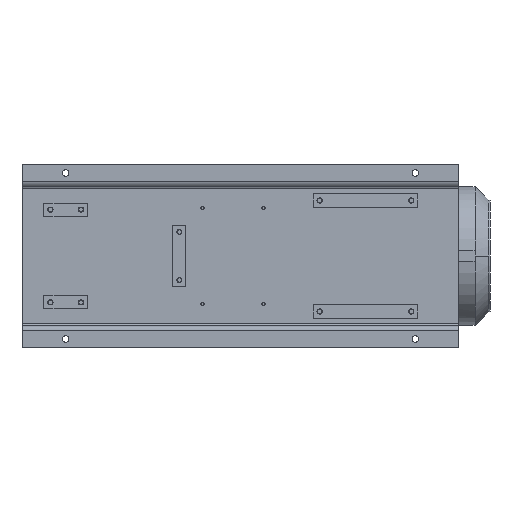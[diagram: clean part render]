
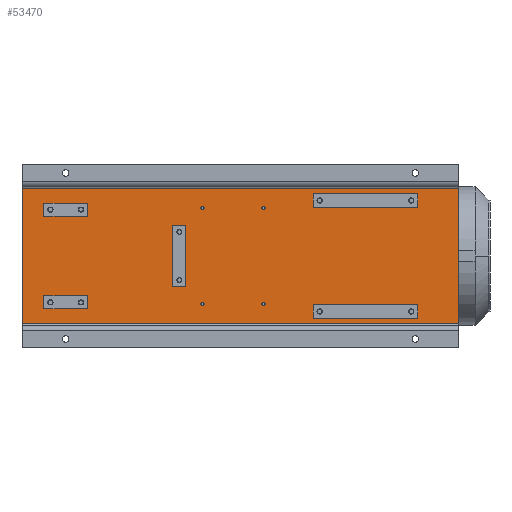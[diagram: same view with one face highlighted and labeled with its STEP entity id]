
A CAD part, front view. The second image highlights one B-rep face of the part: STEP entity #53470.
In plain terms, the highlighted planar face has unit normal (0, -1, 0).
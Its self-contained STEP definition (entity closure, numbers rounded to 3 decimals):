
#51135=DIRECTION('',(1.,0.,0.));
#51136=VECTOR('',#51135,310.);
#51137=CARTESIAN_POINT('',(-155.,45.,0.));
#51138=LINE('',#51137,#51136);
#51590=DIRECTION('',(0.,0.,1.));
#51591=VECTOR('',#51590,1000.);
#51592=CARTESIAN_POINT('',(155.,45.,0.));
#51593=LINE('',#51592,#51591);
#51597=DIRECTION('',(0.,0.,1.));
#51598=VECTOR('',#51597,1000.);
#51599=CARTESIAN_POINT('',(-155.,45.,0.));
#51600=LINE('',#51599,#51598);
#51604=DIRECTION('',(0.,0.,1.));
#51605=VECTOR('',#51604,100.);
#51606=CARTESIAN_POINT('',(-91.,45.,50.));
#51607=LINE('',#51606,#51605);
#51611=DIRECTION('',(-1.,0.,0.));
#51612=VECTOR('',#51611,30.);
#51613=CARTESIAN_POINT('',(-91.,45.,150.));
#51614=LINE('',#51613,#51612);
#51618=DIRECTION('',(0.,0.,-1.));
#51619=VECTOR('',#51618,100.);
#51620=CARTESIAN_POINT('',(-121.,45.,150.));
#51621=LINE('',#51620,#51619);
#51625=DIRECTION('',(1.,0.,0.));
#51626=VECTOR('',#51625,30.);
#51627=CARTESIAN_POINT('',(-121.,45.,50.));
#51628=LINE('',#51627,#51626);
#51632=DIRECTION('',(1.,0.,0.));
#51633=VECTOR('',#51632,30.);
#51634=CARTESIAN_POINT('',(91.,45.,50.));
#51635=LINE('',#51634,#51633);
#51639=DIRECTION('',(0.,0.,1.));
#51640=VECTOR('',#51639,100.);
#51641=CARTESIAN_POINT('',(121.,45.,50.));
#51642=LINE('',#51641,#51640);
#51646=DIRECTION('',(-1.,0.,0.));
#51647=VECTOR('',#51646,30.);
#51648=CARTESIAN_POINT('',(121.,45.,150.));
#51649=LINE('',#51648,#51647);
#51653=DIRECTION('',(0.,0.,-1.));
#51654=VECTOR('',#51653,100.);
#51655=CARTESIAN_POINT('',(91.,45.,150.));
#51656=LINE('',#51655,#51654);
#51660=DIRECTION('',(0.,0.,1.));
#51661=VECTOR('',#51660,240.);
#51662=CARTESIAN_POINT('',(-112.,45.,666.));
#51663=LINE('',#51662,#51661);
#51667=DIRECTION('',(-1.,0.,0.));
#51668=VECTOR('',#51667,30.);
#51669=CARTESIAN_POINT('',(-112.,45.,906.));
#51670=LINE('',#51669,#51668);
#51674=DIRECTION('',(0.,0.,-1.));
#51675=VECTOR('',#51674,240.);
#51676=CARTESIAN_POINT('',(-142.,45.,906.));
#51677=LINE('',#51676,#51675);
#51681=DIRECTION('',(1.,0.,0.));
#51682=VECTOR('',#51681,30.);
#51683=CARTESIAN_POINT('',(-142.,45.,666.));
#51684=LINE('',#51683,#51682);
#51688=DIRECTION('',(1.,0.,0.));
#51689=VECTOR('',#51688,30.);
#51690=CARTESIAN_POINT('',(112.,45.,666.));
#51691=LINE('',#51690,#51689);
#51695=DIRECTION('',(0.,0.,1.));
#51696=VECTOR('',#51695,240.);
#51697=CARTESIAN_POINT('',(142.,45.,666.));
#51698=LINE('',#51697,#51696);
#51702=DIRECTION('',(-1.,0.,0.));
#51703=VECTOR('',#51702,30.);
#51704=CARTESIAN_POINT('',(142.,45.,906.));
#51705=LINE('',#51704,#51703);
#51709=DIRECTION('',(0.,0.,-1.));
#51710=VECTOR('',#51709,240.);
#51711=CARTESIAN_POINT('',(112.,45.,906.));
#51712=LINE('',#51711,#51710);
#51716=DIRECTION('',(0.,0.,1.));
#51717=VECTOR('',#51716,30.);
#51718=CARTESIAN_POINT('',(70.,45.,345.));
#51719=LINE('',#51718,#51717);
#51723=DIRECTION('',(-1.,0.,0.));
#51724=VECTOR('',#51723,140.);
#51725=CARTESIAN_POINT('',(70.,45.,375.));
#51726=LINE('',#51725,#51724);
#51730=DIRECTION('',(0.,0.,-1.));
#51731=VECTOR('',#51730,30.);
#51732=CARTESIAN_POINT('',(-70.,45.,375.));
#51733=LINE('',#51732,#51731);
#51737=DIRECTION('',(1.,0.,0.));
#51738=VECTOR('',#51737,140.);
#51739=CARTESIAN_POINT('',(-70.,45.,345.));
#51740=LINE('',#51739,#51738);
#51744=CARTESIAN_POINT('',(110.,45.,413.));
#51745=DIRECTION('',(0.,1.,0.));
#51746=DIRECTION('',(0.,0.,1.));
#51747=AXIS2_PLACEMENT_3D('',#51744,#51745,#51746);
#51752=CARTESIAN_POINT('',(110.,45.,413.));
#51753=DIRECTION('',(0.,1.,0.));
#51754=DIRECTION('',(0.,0.,-1.));
#51755=AXIS2_PLACEMENT_3D('',#51752,#51753,#51754);
#51760=CARTESIAN_POINT('',(110.,45.,553.));
#51761=DIRECTION('',(0.,1.,0.));
#51762=DIRECTION('',(0.,0.,1.));
#51763=AXIS2_PLACEMENT_3D('',#51760,#51761,#51762);
#51768=CARTESIAN_POINT('',(110.,45.,553.));
#51769=DIRECTION('',(0.,1.,0.));
#51770=DIRECTION('',(0.,0.,-1.));
#51771=AXIS2_PLACEMENT_3D('',#51768,#51769,#51770);
#51776=CARTESIAN_POINT('',(-110.,45.,413.));
#51777=DIRECTION('',(0.,1.,0.));
#51778=DIRECTION('',(0.,0.,1.));
#51779=AXIS2_PLACEMENT_3D('',#51776,#51777,#51778);
#51784=CARTESIAN_POINT('',(-110.,45.,413.));
#51785=DIRECTION('',(0.,1.,0.));
#51786=DIRECTION('',(0.,0.,-1.));
#51787=AXIS2_PLACEMENT_3D('',#51784,#51785,#51786);
#51792=CARTESIAN_POINT('',(-110.,45.,553.));
#51793=DIRECTION('',(0.,1.,0.));
#51794=DIRECTION('',(0.,0.,1.));
#51795=AXIS2_PLACEMENT_3D('',#51792,#51793,#51794);
#51800=CARTESIAN_POINT('',(-110.,45.,553.));
#51801=DIRECTION('',(0.,1.,0.));
#51802=DIRECTION('',(0.,0.,-1.));
#51803=AXIS2_PLACEMENT_3D('',#51800,#51801,#51802);
#52026=DIRECTION('',(1.,0.,0.));
#52027=VECTOR('',#52026,310.);
#52028=CARTESIAN_POINT('',(-155.,45.,1000.));
#52029=LINE('',#52028,#52027);
#52804=CARTESIAN_POINT('',(155.,45.,0.));
#52805=CARTESIAN_POINT('',(155.,45.,1000.));
#52806=VERTEX_POINT('',#52804);
#52807=VERTEX_POINT('',#52805);
#52808=CARTESIAN_POINT('',(-155.,45.,0.));
#52809=CARTESIAN_POINT('',(-155.,45.,1000.));
#52810=VERTEX_POINT('',#52808);
#52811=VERTEX_POINT('',#52809);
#52864=CARTESIAN_POINT('',(-91.,45.,50.));
#52865=CARTESIAN_POINT('',(-91.,45.,150.));
#52866=VERTEX_POINT('',#52864);
#52867=VERTEX_POINT('',#52865);
#52868=CARTESIAN_POINT('',(-121.,45.,150.));
#52869=VERTEX_POINT('',#52868);
#52870=CARTESIAN_POINT('',(-121.,45.,50.));
#52871=VERTEX_POINT('',#52870);
#52872=CARTESIAN_POINT('',(91.,45.,50.));
#52873=CARTESIAN_POINT('',(121.,45.,50.));
#52874=VERTEX_POINT('',#52872);
#52875=VERTEX_POINT('',#52873);
#52876=CARTESIAN_POINT('',(121.,45.,150.));
#52877=VERTEX_POINT('',#52876);
#52878=CARTESIAN_POINT('',(91.,45.,150.));
#52879=VERTEX_POINT('',#52878);
#52896=CARTESIAN_POINT('',(-112.,45.,666.));
#52897=CARTESIAN_POINT('',(-112.,45.,906.));
#52898=VERTEX_POINT('',#52896);
#52899=VERTEX_POINT('',#52897);
#52900=CARTESIAN_POINT('',(-142.,45.,906.));
#52901=VERTEX_POINT('',#52900);
#52902=CARTESIAN_POINT('',(-142.,45.,666.));
#52903=VERTEX_POINT('',#52902);
#52904=CARTESIAN_POINT('',(112.,45.,666.));
#52905=CARTESIAN_POINT('',(142.,45.,666.));
#52906=VERTEX_POINT('',#52904);
#52907=VERTEX_POINT('',#52905);
#52908=CARTESIAN_POINT('',(142.,45.,906.));
#52909=VERTEX_POINT('',#52908);
#52910=CARTESIAN_POINT('',(112.,45.,906.));
#52911=VERTEX_POINT('',#52910);
#53024=CARTESIAN_POINT('',(110.,45.,417.));
#53025=CARTESIAN_POINT('',(110.,45.,409.));
#53026=VERTEX_POINT('',#53024);
#53027=VERTEX_POINT('',#53025);
#53028=CARTESIAN_POINT('',(110.,45.,557.));
#53029=CARTESIAN_POINT('',(110.,45.,549.));
#53030=VERTEX_POINT('',#53028);
#53031=VERTEX_POINT('',#53029);
#53032=CARTESIAN_POINT('',(-110.,45.,417.));
#53033=CARTESIAN_POINT('',(-110.,45.,409.));
#53034=VERTEX_POINT('',#53032);
#53035=VERTEX_POINT('',#53033);
#53036=CARTESIAN_POINT('',(-110.,45.,557.));
#53037=CARTESIAN_POINT('',(-110.,45.,549.));
#53038=VERTEX_POINT('',#53036);
#53039=VERTEX_POINT('',#53037);
#53064=CARTESIAN_POINT('',(70.,45.,345.));
#53065=CARTESIAN_POINT('',(70.,45.,375.));
#53066=VERTEX_POINT('',#53064);
#53067=VERTEX_POINT('',#53065);
#53068=CARTESIAN_POINT('',(-70.,45.,375.));
#53069=VERTEX_POINT('',#53068);
#53070=CARTESIAN_POINT('',(-70.,45.,345.));
#53071=VERTEX_POINT('',#53070);
#53383=CARTESIAN_POINT('',(-160.,45.,0.));
#53384=DIRECTION('',(0.,-1.,0.));
#53385=DIRECTION('',(1.,0.,0.));
#53386=AXIS2_PLACEMENT_3D('',#53383,#53384,#53385);
#53387=PLANE('',#53386);
#53388=ORIENTED_EDGE('',*,*,#53376,.F.);
#53389=ORIENTED_EDGE('',*,*,#53095,.F.);
#53391=ORIENTED_EDGE('',*,*,#53390,.T.);
#53393=ORIENTED_EDGE('',*,*,#53392,.T.);
#53394=EDGE_LOOP('',(#53388,#53389,#53391,#53393));
#53395=FACE_OUTER_BOUND('',#53394,.F.);
#53397=ORIENTED_EDGE('',*,*,#53396,.T.);
#53399=ORIENTED_EDGE('',*,*,#53398,.T.);
#53401=ORIENTED_EDGE('',*,*,#53400,.T.);
#53403=ORIENTED_EDGE('',*,*,#53402,.T.);
#53404=EDGE_LOOP('',(#53397,#53399,#53401,#53403));
#53405=FACE_BOUND('',#53404,.F.);
#53407=ORIENTED_EDGE('',*,*,#53406,.T.);
#53409=ORIENTED_EDGE('',*,*,#53408,.T.);
#53411=ORIENTED_EDGE('',*,*,#53410,.T.);
#53413=ORIENTED_EDGE('',*,*,#53412,.T.);
#53414=EDGE_LOOP('',(#53407,#53409,#53411,#53413));
#53415=FACE_BOUND('',#53414,.F.);
#53417=ORIENTED_EDGE('',*,*,#53416,.T.);
#53419=ORIENTED_EDGE('',*,*,#53418,.T.);
#53421=ORIENTED_EDGE('',*,*,#53420,.T.);
#53423=ORIENTED_EDGE('',*,*,#53422,.T.);
#53424=EDGE_LOOP('',(#53417,#53419,#53421,#53423));
#53425=FACE_BOUND('',#53424,.F.);
#53427=ORIENTED_EDGE('',*,*,#53426,.T.);
#53429=ORIENTED_EDGE('',*,*,#53428,.T.);
#53431=ORIENTED_EDGE('',*,*,#53430,.T.);
#53433=ORIENTED_EDGE('',*,*,#53432,.T.);
#53434=EDGE_LOOP('',(#53427,#53429,#53431,#53433));
#53435=FACE_BOUND('',#53434,.F.);
#53437=ORIENTED_EDGE('',*,*,#53436,.T.);
#53439=ORIENTED_EDGE('',*,*,#53438,.T.);
#53441=ORIENTED_EDGE('',*,*,#53440,.T.);
#53443=ORIENTED_EDGE('',*,*,#53442,.T.);
#53444=EDGE_LOOP('',(#53437,#53439,#53441,#53443));
#53445=FACE_BOUND('',#53444,.F.);
#53447=ORIENTED_EDGE('',*,*,#53446,.F.);
#53449=ORIENTED_EDGE('',*,*,#53448,.F.);
#53450=EDGE_LOOP('',(#53447,#53449));
#53451=FACE_BOUND('',#53450,.F.);
#53453=ORIENTED_EDGE('',*,*,#53452,.F.);
#53455=ORIENTED_EDGE('',*,*,#53454,.F.);
#53456=EDGE_LOOP('',(#53453,#53455));
#53457=FACE_BOUND('',#53456,.F.);
#53459=ORIENTED_EDGE('',*,*,#53458,.F.);
#53461=ORIENTED_EDGE('',*,*,#53460,.F.);
#53462=EDGE_LOOP('',(#53459,#53461));
#53463=FACE_BOUND('',#53462,.F.);
#53465=ORIENTED_EDGE('',*,*,#53464,.F.);
#53467=ORIENTED_EDGE('',*,*,#53466,.F.);
#53468=EDGE_LOOP('',(#53465,#53467));
#53469=FACE_BOUND('',#53468,.F.);
#51748=CIRCLE('',#51747,4.);
#51756=CIRCLE('',#51755,4.);
#51764=CIRCLE('',#51763,4.);
#51772=CIRCLE('',#51771,4.);
#51780=CIRCLE('',#51779,4.);
#51788=CIRCLE('',#51787,4.);
#51796=CIRCLE('',#51795,4.);
#51804=CIRCLE('',#51803,4.);
#53095=EDGE_CURVE('',#52810,#52806,#51138,.T.);
#53376=EDGE_CURVE('',#52806,#52807,#51593,.T.);
#53390=EDGE_CURVE('',#52810,#52811,#51600,.T.);
#53392=EDGE_CURVE('',#52811,#52807,#52029,.T.);
#53396=EDGE_CURVE('',#52866,#52867,#51607,.T.);
#53398=EDGE_CURVE('',#52867,#52869,#51614,.T.);
#53400=EDGE_CURVE('',#52869,#52871,#51621,.T.);
#53402=EDGE_CURVE('',#52871,#52866,#51628,.T.);
#53406=EDGE_CURVE('',#52874,#52875,#51635,.T.);
#53408=EDGE_CURVE('',#52875,#52877,#51642,.T.);
#53410=EDGE_CURVE('',#52877,#52879,#51649,.T.);
#53412=EDGE_CURVE('',#52879,#52874,#51656,.T.);
#53416=EDGE_CURVE('',#52898,#52899,#51663,.T.);
#53418=EDGE_CURVE('',#52899,#52901,#51670,.T.);
#53420=EDGE_CURVE('',#52901,#52903,#51677,.T.);
#53422=EDGE_CURVE('',#52903,#52898,#51684,.T.);
#53426=EDGE_CURVE('',#52906,#52907,#51691,.T.);
#53428=EDGE_CURVE('',#52907,#52909,#51698,.T.);
#53430=EDGE_CURVE('',#52909,#52911,#51705,.T.);
#53432=EDGE_CURVE('',#52911,#52906,#51712,.T.);
#53436=EDGE_CURVE('',#53066,#53067,#51719,.T.);
#53438=EDGE_CURVE('',#53067,#53069,#51726,.T.);
#53440=EDGE_CURVE('',#53069,#53071,#51733,.T.);
#53442=EDGE_CURVE('',#53071,#53066,#51740,.T.);
#53446=EDGE_CURVE('',#53026,#53027,#51748,.T.);
#53448=EDGE_CURVE('',#53027,#53026,#51756,.T.);
#53452=EDGE_CURVE('',#53030,#53031,#51764,.T.);
#53454=EDGE_CURVE('',#53031,#53030,#51772,.T.);
#53458=EDGE_CURVE('',#53034,#53035,#51780,.T.);
#53460=EDGE_CURVE('',#53035,#53034,#51788,.T.);
#53464=EDGE_CURVE('',#53038,#53039,#51796,.T.);
#53466=EDGE_CURVE('',#53039,#53038,#51804,.T.);
#53470=ADVANCED_FACE('',(#53395,#53405,#53415,#53425,#53435,#53445,#53451,
#53457,#53463,#53469),#53387,.T.);
